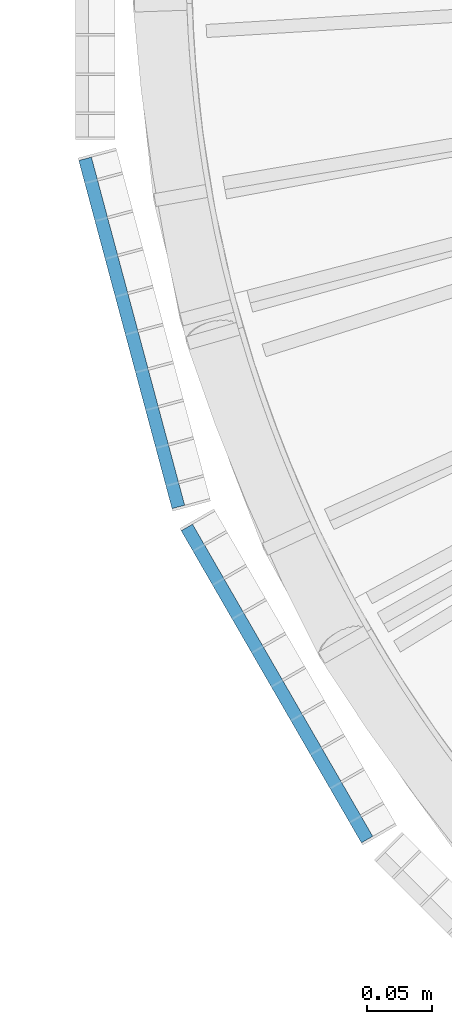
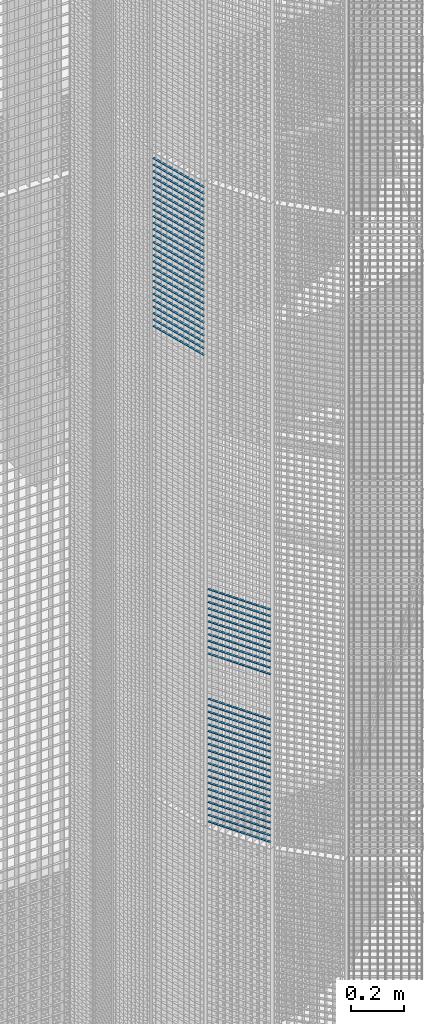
# One storey, part 117 of 1183: 58 beams, 2 elements without a shape of their own.
"""IFC2X3 building model written with IfcOpenShell, lengths in millimetres."""

from ifc_helpers import new_model, si_unit, frame, origin_with_axes, origin_2d_with_axis, place, context, subcontext, project, spatial, rectangle, extrude, material, type_object, element, aggregate, save


model = new_model("IFC2X3")

# Units and contexts
model_context = context("Model", 3, precision=1e-05, world=origin_with_axes())
body_context = subcontext(model_context, "Body", "Model", "MODEL_VIEW")
ifc_project = project(units=[si_unit("LENGTHUNIT", "METRE", prefix="MILLI"), si_unit("AREAUNIT", "SQUARE_METRE"), si_unit("VOLUMEUNIT", "CUBIC_METRE"), si_unit("MASSUNIT", "GRAM", prefix="KILO"), si_unit("TIMEUNIT", "SECOND"), si_unit("PLANEANGLEUNIT", "RADIAN"), si_unit("SOLIDANGLEUNIT", "STERADIAN"), si_unit("THERMODYNAMICTEMPERATUREUNIT", "DEGREE_CELSIUS"), si_unit("LUMINOUSINTENSITYUNIT", "LUMEN")], contexts=[model_context])

# Site, building, storey
site_placement = place(None, origin_with_axes())
site = spatial("IfcSite", under=ifc_project, at=site_placement, Name="Undefined", CompositionType="ELEMENT")
building_placement = place(site_placement, origin_with_axes())
building = spatial("IfcBuilding", under=site, at=building_placement, Name="Undefined", CompositionType="ELEMENT")
storey_placement = place(building_placement, origin_with_axes())
storey = spatial("IfcBuildingStorey", under=building, at=storey_placement, Name="Undefined", CompositionType="ELEMENT", Elevation=0.0)

# Assembly, beams
assembly_1_placement = place(storey_placement, origin_with_axes())
assembly_1 = element("IfcElementAssembly", 1, at=assembly_1_placement, inside=storey, Name="BORDURE", AssemblyPlace="NOTDEFINED", PredefinedType="NOTDEFINED")
ifc_material = material(Name="STEEL/S235JR")
beam_type = type_object("IfcBeamType", Name="PL2*10", PredefinedType="NOTDEFINED")
beam_1_placement = place(assembly_1_placement, frame((-1033.29996828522, -437.231955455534, 9600.0), z_axis=(-0.866025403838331, -0.499999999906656, 0.0), x_axis=(0.499999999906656, -0.866025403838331, 0.0)))
beam_1 = element("IfcBeam", 2, at=beam_1_placement, type_object=beam_type, material=ifc_material, Name="ENTRETOISE", context=body_context, shape_type="SweptSolid", body=[
    extrude(rectangle(XDim=2.0, YDim=10.0, at=origin_2d_with_axis()), frame((275.999999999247, 9.09494701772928e-13, 1.53210777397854e-14), z_axis=(-1.0, 0.0, 0.0), x_axis=(0.0, -1.0, 0.0)), (0.0, 0.0, 1.0), 276.0),
])
beam_2_placement = place(assembly_1_placement, frame((-1033.29996828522, -437.231955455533, 9810.0), z_axis=(-0.866025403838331, -0.499999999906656, 0.0), x_axis=(0.499999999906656, -0.866025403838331, 0.0)))
beam_2 = element("IfcBeam", 3, at=beam_2_placement, type_object=beam_type, material=ifc_material, Name="ENTRETOISE", context=body_context, shape_type="SweptSolid", body=[
    extrude(rectangle(XDim=2.0, YDim=10.0, at=origin_2d_with_axis()), frame((275.999999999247, 9.09494701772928e-13, 1.53210777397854e-14), z_axis=(-1.0, 0.0, 0.0), x_axis=(0.0, -1.0, 0.0)), (0.0, 0.0, 1.0), 276.0),
])
beam_3_placement = place(assembly_1_placement, frame((-1033.29996828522, -437.231955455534, 9570.0), z_axis=(-0.866025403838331, -0.499999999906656, 0.0), x_axis=(0.499999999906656, -0.866025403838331, 0.0)))
beam_3 = element("IfcBeam", 4, at=beam_3_placement, type_object=beam_type, material=ifc_material, Name="ENTRETOISE", context=body_context, shape_type="SweptSolid", body=[
    extrude(rectangle(XDim=2.0, YDim=10.0, at=origin_2d_with_axis()), frame((275.999999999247, 9.09494701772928e-13, 1.53210777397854e-14), z_axis=(-1.0, 0.0, 0.0), x_axis=(0.0, -1.0, 0.0)), (0.0, 0.0, 1.0), 276.0),
])
beam_4_placement = place(assembly_1_placement, frame((-1033.29996828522, -437.231955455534, 9540.0), z_axis=(-0.866025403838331, -0.499999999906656, 0.0), x_axis=(0.499999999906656, -0.866025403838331, 0.0)))
beam_4 = element("IfcBeam", 5, at=beam_4_placement, type_object=beam_type, material=ifc_material, Name="ENTRETOISE", context=body_context, shape_type="SweptSolid", body=[
    extrude(rectangle(XDim=2.0, YDim=10.0, at=origin_2d_with_axis()), frame((275.999999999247, 9.09494701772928e-13, 1.53210777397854e-14), z_axis=(-1.0, 0.0, 0.0), x_axis=(0.0, -1.0, 0.0)), (0.0, 0.0, 1.0), 276.0),
])
beam_5_placement = place(assembly_1_placement, frame((-1033.29996828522, -437.231955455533, 9840.0), z_axis=(-0.866025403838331, -0.499999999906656, 0.0), x_axis=(0.499999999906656, -0.866025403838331, 0.0)))
beam_5 = element("IfcBeam", 6, at=beam_5_placement, type_object=beam_type, material=ifc_material, Name="ENTRETOISE", context=body_context, shape_type="SweptSolid", body=[
    extrude(rectangle(XDim=2.0, YDim=10.0, at=origin_2d_with_axis()), frame((275.999999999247, 9.09494701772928e-13, 1.53210777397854e-14), z_axis=(-1.0, 0.0, 0.0), x_axis=(0.0, -1.0, 0.0)), (0.0, 0.0, 1.0), 276.0),
])
beam_6_placement = place(assembly_1_placement, frame((-1033.29996828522, -437.231955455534, 9510.0), z_axis=(-0.866025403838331, -0.499999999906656, 0.0), x_axis=(0.499999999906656, -0.866025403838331, 0.0)))
beam_6 = element("IfcBeam", 7, at=beam_6_placement, type_object=beam_type, material=ifc_material, Name="ENTRETOISE", context=body_context, shape_type="SweptSolid", body=[
    extrude(rectangle(XDim=2.0, YDim=10.0, at=origin_2d_with_axis()), frame((275.999999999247, 9.09494701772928e-13, 1.53210777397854e-14), z_axis=(-1.0, 0.0, 0.0), x_axis=(0.0, -1.0, 0.0)), (0.0, 0.0, 1.0), 276.0),
])
beam_7_placement = place(assembly_1_placement, frame((-1033.29996828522, -437.231955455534, 9480.0), z_axis=(-0.866025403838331, -0.499999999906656, 0.0), x_axis=(0.499999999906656, -0.866025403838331, 0.0)))
beam_7 = element("IfcBeam", 8, at=beam_7_placement, type_object=beam_type, material=ifc_material, Name="ENTRETOISE", context=body_context, shape_type="SweptSolid", body=[
    extrude(rectangle(XDim=2.0, YDim=10.0, at=origin_2d_with_axis()), frame((275.999999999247, 9.09494701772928e-13, 1.53210777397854e-14), z_axis=(-1.0, 0.0, 0.0), x_axis=(0.0, -1.0, 0.0)), (0.0, 0.0, 1.0), 276.0),
])
beam_8_placement = place(assembly_1_placement, frame((-1033.29996828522, -437.231955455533, 9870.0), z_axis=(-0.866025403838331, -0.499999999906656, 0.0), x_axis=(0.499999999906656, -0.866025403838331, 0.0)))
beam_8 = element("IfcBeam", 9, at=beam_8_placement, type_object=beam_type, material=ifc_material, Name="ENTRETOISE", context=body_context, shape_type="SweptSolid", body=[
    extrude(rectangle(XDim=2.0, YDim=10.0, at=origin_2d_with_axis()), frame((275.999999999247, 9.09494701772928e-13, 1.53210777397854e-14), z_axis=(-1.0, 0.0, 0.0), x_axis=(0.0, -1.0, 0.0)), (0.0, 0.0, 1.0), 276.0),
])
beam_9_placement = place(assembly_1_placement, frame((-1033.29996828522, -437.231955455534, 9450.0), z_axis=(-0.866025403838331, -0.499999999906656, 0.0), x_axis=(0.499999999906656, -0.866025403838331, 0.0)))
beam_9 = element("IfcBeam", 10, at=beam_9_placement, type_object=beam_type, material=ifc_material, Name="ENTRETOISE", context=body_context, shape_type="SweptSolid", body=[
    extrude(rectangle(XDim=2.0, YDim=10.0, at=origin_2d_with_axis()), frame((275.999999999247, 9.09494701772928e-13, 1.53210777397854e-14), z_axis=(-1.0, 0.0, 0.0), x_axis=(0.0, -1.0, 0.0)), (0.0, 0.0, 1.0), 276.0),
])
beam_10_placement = place(assembly_1_placement, frame((-1033.29996828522, -437.231955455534, 9420.0), z_axis=(-0.866025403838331, -0.499999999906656, 0.0), x_axis=(0.499999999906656, -0.866025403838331, 0.0)))
beam_10 = element("IfcBeam", 11, at=beam_10_placement, type_object=beam_type, material=ifc_material, Name="ENTRETOISE", context=body_context, shape_type="SweptSolid", body=[
    extrude(rectangle(XDim=2.0, YDim=10.0, at=origin_2d_with_axis()), frame((275.999999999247, 9.09494701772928e-13, 1.53210777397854e-14), z_axis=(-1.0, 0.0, 0.0), x_axis=(0.0, -1.0, 0.0)), (0.0, 0.0, 1.0), 276.0),
])
beam_11_placement = place(assembly_1_placement, frame((-1033.29996828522, -437.231955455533, 9900.0), z_axis=(-0.866025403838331, -0.499999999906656, 0.0), x_axis=(0.499999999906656, -0.866025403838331, 0.0)))
beam_11 = element("IfcBeam", 12, at=beam_11_placement, type_object=beam_type, material=ifc_material, Name="ENTRETOISE", context=body_context, shape_type="SweptSolid", body=[
    extrude(rectangle(XDim=2.0, YDim=10.0, at=origin_2d_with_axis()), frame((275.999999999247, 9.09494701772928e-13, 1.53210777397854e-14), z_axis=(-1.0, 0.0, 0.0), x_axis=(0.0, -1.0, 0.0)), (0.0, 0.0, 1.0), 276.0),
])
beam_12_placement = place(assembly_1_placement, frame((-1033.29996828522, -437.231955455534, 9390.0), z_axis=(-0.866025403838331, -0.499999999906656, 0.0), x_axis=(0.499999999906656, -0.866025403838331, 0.0)))
beam_12 = element("IfcBeam", 13, at=beam_12_placement, type_object=beam_type, material=ifc_material, Name="ENTRETOISE", context=body_context, shape_type="SweptSolid", body=[
    extrude(rectangle(XDim=2.0, YDim=10.0, at=origin_2d_with_axis()), frame((275.999999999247, 9.09494701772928e-13, 1.53210777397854e-14), z_axis=(-1.0, 0.0, 0.0), x_axis=(0.0, -1.0, 0.0)), (0.0, 0.0, 1.0), 276.0),
])
beam_13_placement = place(assembly_1_placement, frame((-1033.29996828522, -437.231955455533, 9930.0), z_axis=(-0.866025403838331, -0.499999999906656, 0.0), x_axis=(0.499999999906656, -0.866025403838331, 0.0)))
beam_13 = element("IfcBeam", 14, at=beam_13_placement, type_object=beam_type, material=ifc_material, Name="ENTRETOISE", context=body_context, shape_type="SweptSolid", body=[
    extrude(rectangle(XDim=2.0, YDim=10.0, at=origin_2d_with_axis()), frame((275.999999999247, 9.09494701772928e-13, 1.53210777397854e-14), z_axis=(-1.0, 0.0, 0.0), x_axis=(0.0, -1.0, 0.0)), (0.0, 0.0, 1.0), 276.0),
])
beam_14_placement = place(assembly_1_placement, frame((-1033.29996828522, -437.231955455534, 9360.0), z_axis=(-0.866025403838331, -0.499999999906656, 0.0), x_axis=(0.499999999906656, -0.866025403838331, 0.0)))
beam_14 = element("IfcBeam", 15, at=beam_14_placement, type_object=beam_type, material=ifc_material, Name="ENTRETOISE", context=body_context, shape_type="SweptSolid", body=[
    extrude(rectangle(XDim=2.0, YDim=10.0, at=origin_2d_with_axis()), frame((275.999999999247, 9.09494701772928e-13, 1.53210777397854e-14), z_axis=(-1.0, 0.0, 0.0), x_axis=(0.0, -1.0, 0.0)), (0.0, 0.0, 1.0), 276.0),
])
beam_15_placement = place(assembly_1_placement, frame((-1033.29996828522, -437.231955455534, 9330.0), z_axis=(-0.866025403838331, -0.499999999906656, 0.0), x_axis=(0.499999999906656, -0.866025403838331, 0.0)))
beam_15 = element("IfcBeam", 16, at=beam_15_placement, type_object=beam_type, material=ifc_material, Name="ENTRETOISE", context=body_context, shape_type="SweptSolid", body=[
    extrude(rectangle(XDim=2.0, YDim=10.0, at=origin_2d_with_axis()), frame((275.999999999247, 9.09494701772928e-13, 1.53210777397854e-14), z_axis=(-1.0, 0.0, 0.0), x_axis=(0.0, -1.0, 0.0)), (0.0, 0.0, 1.0), 276.0),
])
beam_16_placement = place(assembly_1_placement, frame((-1033.29996828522, -437.231955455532, 9960.0), z_axis=(-0.866025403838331, -0.499999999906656, 0.0), x_axis=(0.499999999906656, -0.866025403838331, 0.0)))
beam_16 = element("IfcBeam", 17, at=beam_16_placement, type_object=beam_type, material=ifc_material, Name="ENTRETOISE", context=body_context, shape_type="SweptSolid", body=[
    extrude(rectangle(XDim=2.0, YDim=10.0, at=origin_2d_with_axis()), frame((275.999999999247, 9.09494701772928e-13, 1.53210777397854e-14), z_axis=(-1.0, 0.0, 0.0), x_axis=(0.0, -1.0, 0.0)), (0.0, 0.0, 1.0), 276.0),
])
beam_17_placement = place(assembly_1_placement, frame((-1033.29996828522, -437.231955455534, 9300.0), z_axis=(-0.866025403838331, -0.499999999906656, 0.0), x_axis=(0.499999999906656, -0.866025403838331, 0.0)))
beam_17 = element("IfcBeam", 18, at=beam_17_placement, type_object=beam_type, material=ifc_material, Name="ENTRETOISE", context=body_context, shape_type="SweptSolid", body=[
    extrude(rectangle(XDim=2.0, YDim=10.0, at=origin_2d_with_axis()), frame((275.999999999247, 9.09494701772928e-13, 1.53210777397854e-14), z_axis=(-1.0, 0.0, 0.0), x_axis=(0.0, -1.0, 0.0)), (0.0, 0.0, 1.0), 276.0),
])
beam_18_placement = place(assembly_1_placement, frame((-1033.29996828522, -437.231955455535, 9270.0), z_axis=(-0.866025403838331, -0.499999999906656, 0.0), x_axis=(0.499999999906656, -0.866025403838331, 0.0)))
beam_18 = element("IfcBeam", 19, at=beam_18_placement, type_object=beam_type, material=ifc_material, Name="ENTRETOISE", context=body_context, shape_type="SweptSolid", body=[
    extrude(rectangle(XDim=2.0, YDim=10.0, at=origin_2d_with_axis()), frame((275.999999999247, 9.09494701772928e-13, 1.53210777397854e-14), z_axis=(-1.0, 0.0, 0.0), x_axis=(0.0, -1.0, 0.0)), (0.0, 0.0, 1.0), 276.0),
])
beam_19_placement = place(assembly_1_placement, frame((-1033.29996828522, -437.231955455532, 9990.0), z_axis=(-0.866025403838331, -0.499999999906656, 0.0), x_axis=(0.499999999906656, -0.866025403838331, 0.0)))
beam_19 = element("IfcBeam", 20, at=beam_19_placement, type_object=beam_type, material=ifc_material, Name="ENTRETOISE", context=body_context, shape_type="SweptSolid", body=[
    extrude(rectangle(XDim=2.0, YDim=10.0, at=origin_2d_with_axis()), frame((275.999999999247, 9.09494701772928e-13, 1.53210777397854e-14), z_axis=(-1.0, 0.0, 0.0), x_axis=(0.0, -1.0, 0.0)), (0.0, 0.0, 1.0), 276.0),
])
beam_20_placement = place(assembly_1_placement, frame((-1033.29996828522, -437.231955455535, 9240.0), z_axis=(-0.866025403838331, -0.499999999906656, 0.0), x_axis=(0.499999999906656, -0.866025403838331, 0.0)))
beam_20 = element("IfcBeam", 21, at=beam_20_placement, type_object=beam_type, material=ifc_material, Name="ENTRETOISE", context=body_context, shape_type="SweptSolid", body=[
    extrude(rectangle(XDim=2.0, YDim=10.0, at=origin_2d_with_axis()), frame((275.999999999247, 9.09494701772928e-13, 1.53210777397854e-14), z_axis=(-1.0, 0.0, 0.0), x_axis=(0.0, -1.0, 0.0)), (0.0, 0.0, 1.0), 276.0),
])
beam_21_placement = place(assembly_1_placement, frame((-1033.29996828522, -437.231955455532, 10020.0), z_axis=(-0.866025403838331, -0.499999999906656, 0.0), x_axis=(0.499999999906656, -0.866025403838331, 0.0)))
beam_21 = element("IfcBeam", 22, at=beam_21_placement, type_object=beam_type, material=ifc_material, Name="ENTRETOISE", context=body_context, shape_type="SweptSolid", body=[
    extrude(rectangle(XDim=2.0, YDim=10.0, at=origin_2d_with_axis()), frame((275.999999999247, 9.09494701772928e-13, 1.53210777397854e-14), z_axis=(-1.0, 0.0, 0.0), x_axis=(0.0, -1.0, 0.0)), (0.0, 0.0, 1.0), 276.0),
])
beam_22_placement = place(assembly_1_placement, frame((-1033.29996828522, -437.231955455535, 9210.0), z_axis=(-0.866025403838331, -0.499999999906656, 0.0), x_axis=(0.499999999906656, -0.866025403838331, 0.0)))
beam_22 = element("IfcBeam", 23, at=beam_22_placement, type_object=beam_type, material=ifc_material, Name="ENTRETOISE", context=body_context, shape_type="SweptSolid", body=[
    extrude(rectangle(XDim=2.0, YDim=10.0, at=origin_2d_with_axis()), frame((275.999999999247, 9.09494701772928e-13, 1.53210777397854e-14), z_axis=(-1.0, 0.0, 0.0), x_axis=(0.0, -1.0, 0.0)), (0.0, 0.0, 1.0), 276.0),
])
beam_23_placement = place(assembly_1_placement, frame((-1033.29996828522, -437.231955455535, 9180.0), z_axis=(-0.866025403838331, -0.499999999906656, 0.0), x_axis=(0.499999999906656, -0.866025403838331, 0.0)))
beam_23 = element("IfcBeam", 24, at=beam_23_placement, type_object=beam_type, material=ifc_material, Name="ENTRETOISE", context=body_context, shape_type="SweptSolid", body=[
    extrude(rectangle(XDim=2.0, YDim=10.0, at=origin_2d_with_axis()), frame((275.999999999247, 9.09494701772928e-13, 1.53210777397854e-14), z_axis=(-1.0, 0.0, 0.0), x_axis=(0.0, -1.0, 0.0)), (0.0, 0.0, 1.0), 276.0),
])
beam_24_placement = place(assembly_1_placement, frame((-1033.29996828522, -437.231955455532, 10050.0), z_axis=(-0.866025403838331, -0.499999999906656, 0.0), x_axis=(0.499999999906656, -0.866025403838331, 0.0)))
beam_24 = element("IfcBeam", 25, at=beam_24_placement, type_object=beam_type, material=ifc_material, Name="ENTRETOISE", context=body_context, shape_type="SweptSolid", body=[
    extrude(rectangle(XDim=2.0, YDim=10.0, at=origin_2d_with_axis()), frame((275.999999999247, 9.09494701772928e-13, 1.53210777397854e-14), z_axis=(-1.0, 0.0, 0.0), x_axis=(0.0, -1.0, 0.0)), (0.0, 0.0, 1.0), 276.0),
])
beam_25_placement = place(assembly_1_placement, frame((-1033.29996828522, -437.231955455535, 9150.0), z_axis=(-0.866025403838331, -0.499999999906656, 0.0), x_axis=(0.499999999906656, -0.866025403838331, 0.0)))
beam_25 = element("IfcBeam", 26, at=beam_25_placement, type_object=beam_type, material=ifc_material, Name="ENTRETOISE", context=body_context, shape_type="SweptSolid", body=[
    extrude(rectangle(XDim=2.0, YDim=10.0, at=origin_2d_with_axis()), frame((275.999999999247, 9.09494701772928e-13, 1.53210777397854e-14), z_axis=(-1.0, 0.0, 0.0), x_axis=(0.0, -1.0, 0.0)), (0.0, 0.0, 1.0), 276.0),
])
beam_26_placement = place(assembly_1_placement, frame((-1033.29996828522, -437.231955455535, 9120.0), z_axis=(-0.866025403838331, -0.499999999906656, 0.0), x_axis=(0.499999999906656, -0.866025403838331, 0.0)))
beam_26 = element("IfcBeam", 27, at=beam_26_placement, type_object=beam_type, material=ifc_material, Name="ENTRETOISE", context=body_context, shape_type="SweptSolid", body=[
    extrude(rectangle(XDim=2.0, YDim=10.0, at=origin_2d_with_axis()), frame((275.999999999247, 9.09494701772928e-13, 1.53210777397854e-14), z_axis=(-1.0, 0.0, 0.0), x_axis=(0.0, -1.0, 0.0)), (0.0, 0.0, 1.0), 276.0),
])
beam_27_placement = place(assembly_1_placement, frame((-1033.29996828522, -437.231955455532, 10080.0), z_axis=(-0.866025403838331, -0.499999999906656, 0.0), x_axis=(0.499999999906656, -0.866025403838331, 0.0)))
beam_27 = element("IfcBeam", 28, at=beam_27_placement, type_object=beam_type, material=ifc_material, Name="ENTRETOISE", context=body_context, shape_type="SweptSolid", body=[
    extrude(rectangle(XDim=2.0, YDim=10.0, at=origin_2d_with_axis()), frame((275.999999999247, 9.09494701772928e-13, 1.53210777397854e-14), z_axis=(-1.0, 0.0, 0.0), x_axis=(0.0, -1.0, 0.0)), (0.0, 0.0, 1.0), 276.0),
])
beam_28_placement = place(assembly_1_placement, frame((-1033.29996828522, -437.231955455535, 9090.0), z_axis=(-0.866025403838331, -0.499999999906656, 0.0), x_axis=(0.499999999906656, -0.866025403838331, 0.0)))
beam_28 = element("IfcBeam", 29, at=beam_28_placement, type_object=beam_type, material=ifc_material, Name="ENTRETOISE", context=body_context, shape_type="SweptSolid", body=[
    extrude(rectangle(XDim=2.0, YDim=10.0, at=origin_2d_with_axis()), frame((275.999999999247, 9.09494701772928e-13, 1.53210777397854e-14), z_axis=(-1.0, 0.0, 0.0), x_axis=(0.0, -1.0, 0.0)), (0.0, 0.0, 1.0), 276.0),
])
beam_29_placement = place(assembly_1_placement, frame((-1033.29996828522, -437.231955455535, 9060.0), z_axis=(-0.866025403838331, -0.499999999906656, 0.0), x_axis=(0.499999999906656, -0.866025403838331, 0.0)))
beam_29 = element("IfcBeam", 30, at=beam_29_placement, type_object=beam_type, material=ifc_material, Name="ENTRETOISE", context=body_context, shape_type="SweptSolid", body=[
    extrude(rectangle(XDim=2.0, YDim=10.0, at=origin_2d_with_axis()), frame((275.999999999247, 9.09494701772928e-13, 1.53210777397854e-14), z_axis=(-1.0, 0.0, 0.0), x_axis=(0.0, -1.0, 0.0)), (0.0, 0.0, 1.0), 276.0),
])
beam_30_placement = place(assembly_1_placement, frame((-1033.29996828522, -437.231955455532, 10110.0), z_axis=(-0.866025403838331, -0.499999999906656, 0.0), x_axis=(0.499999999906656, -0.866025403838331, 0.0)))
beam_30 = element("IfcBeam", 31, at=beam_30_placement, type_object=beam_type, material=ifc_material, Name="ENTRETOISE", context=body_context, shape_type="SweptSolid", body=[
    extrude(rectangle(XDim=2.0, YDim=10.0, at=origin_2d_with_axis()), frame((275.999999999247, 9.09494701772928e-13, 1.53210777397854e-14), z_axis=(-1.0, 0.0, 0.0), x_axis=(0.0, -1.0, 0.0)), (0.0, 0.0, 1.0), 276.0),
])
beam_31_placement = place(assembly_1_placement, frame((-1033.29996828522, -437.231955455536, 9030.0), z_axis=(-0.866025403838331, -0.499999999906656, 0.0), x_axis=(0.499999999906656, -0.866025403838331, 0.0)))
beam_31 = element("IfcBeam", 32, at=beam_31_placement, type_object=beam_type, material=ifc_material, Name="ENTRETOISE", context=body_context, shape_type="SweptSolid", body=[
    extrude(rectangle(XDim=2.0, YDim=10.0, at=origin_2d_with_axis()), frame((275.999999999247, 9.09494701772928e-13, 1.53210777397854e-14), z_axis=(-1.0, 0.0, 0.0), x_axis=(0.0, -1.0, 0.0)), (0.0, 0.0, 1.0), 276.0),
])
aggregate(assembly_1, [beam_1, beam_2, beam_3, beam_4, beam_5, beam_6, beam_7, beam_8, beam_9, beam_10, beam_11, beam_12, beam_13, beam_14, beam_15, beam_16, beam_17, beam_18, beam_19, beam_20, beam_21, beam_22, beam_23, beam_24, beam_25, beam_26, beam_27, beam_28, beam_29, beam_30, beam_31])

assembly_2_placement = place(storey_placement, origin_with_axes())
assembly_2 = element("IfcElementAssembly", 33, at=assembly_2_placement, inside=storey, Name="BORDURE", AssemblyPlace="NOTDEFINED", PredefinedType="NOTDEFINED")
beam_32_placement = place(assembly_2_placement, frame((-1111.25508286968, -154.895926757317, 11970.0), z_axis=(-0.965925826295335, -0.258819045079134, 0.0), x_axis=(0.258819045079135, -0.965925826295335, 0.0)))
beam_32 = element("IfcBeam", 34, at=beam_32_placement, type_object=beam_type, material=ifc_material, Name="ENTRETOISE", context=body_context, shape_type="SweptSolid", body=[
    extrude(rectangle(XDim=2.0, YDim=10.0, at=origin_2d_with_axis()), frame((275.999999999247, 9.09494701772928e-13, 1.53210777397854e-14), z_axis=(-1.0, 0.0, 0.0), x_axis=(0.0, -1.0, 0.0)), (0.0, 0.0, 1.0), 276.0),
])
beam_33_placement = place(assembly_2_placement, frame((-1111.25508286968, -154.895926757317, 11940.0), z_axis=(-0.965925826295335, -0.258819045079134, 0.0), x_axis=(0.258819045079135, -0.965925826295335, 0.0)))
beam_33 = element("IfcBeam", 35, at=beam_33_placement, type_object=beam_type, material=ifc_material, Name="ENTRETOISE", context=body_context, shape_type="SweptSolid", body=[
    extrude(rectangle(XDim=2.0, YDim=10.0, at=origin_2d_with_axis()), frame((275.999999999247, 9.09494701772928e-13, 1.53210777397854e-14), z_axis=(-1.0, 0.0, 0.0), x_axis=(0.0, -1.0, 0.0)), (0.0, 0.0, 1.0), 276.0),
])
beam_34_placement = place(assembly_2_placement, frame((-1111.25508286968, -154.895926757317, 11910.0), z_axis=(-0.965925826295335, -0.258819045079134, 0.0), x_axis=(0.258819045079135, -0.965925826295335, 0.0)))
beam_34 = element("IfcBeam", 36, at=beam_34_placement, type_object=beam_type, material=ifc_material, Name="ENTRETOISE", context=body_context, shape_type="SweptSolid", body=[
    extrude(rectangle(XDim=2.0, YDim=10.0, at=origin_2d_with_axis()), frame((275.999999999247, 9.09494701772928e-13, 1.53210777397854e-14), z_axis=(-1.0, 0.0, 0.0), x_axis=(0.0, -1.0, 0.0)), (0.0, 0.0, 1.0), 276.0),
])
beam_35_placement = place(assembly_2_placement, frame((-1111.25508286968, -154.895926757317, 11880.0), z_axis=(-0.965925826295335, -0.258819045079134, 0.0), x_axis=(0.258819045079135, -0.965925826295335, 0.0)))
beam_35 = element("IfcBeam", 37, at=beam_35_placement, type_object=beam_type, material=ifc_material, Name="ENTRETOISE", context=body_context, shape_type="SweptSolid", body=[
    extrude(rectangle(XDim=2.0, YDim=10.0, at=origin_2d_with_axis()), frame((275.999999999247, 9.09494701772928e-13, 1.53210777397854e-14), z_axis=(-1.0, 0.0, 0.0), x_axis=(0.0, -1.0, 0.0)), (0.0, 0.0, 1.0), 276.0),
])
beam_36_placement = place(assembly_2_placement, frame((-1111.25508286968, -154.895926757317, 11850.0), z_axis=(-0.965925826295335, -0.258819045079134, 0.0), x_axis=(0.258819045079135, -0.965925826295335, 0.0)))
beam_36 = element("IfcBeam", 38, at=beam_36_placement, type_object=beam_type, material=ifc_material, Name="ENTRETOISE", context=body_context, shape_type="SweptSolid", body=[
    extrude(rectangle(XDim=2.0, YDim=10.0, at=origin_2d_with_axis()), frame((275.999999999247, 9.09494701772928e-13, 1.53210777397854e-14), z_axis=(-1.0, 0.0, 0.0), x_axis=(0.0, -1.0, 0.0)), (0.0, 0.0, 1.0), 276.0),
])
beam_37_placement = place(assembly_2_placement, frame((-1111.25508286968, -154.895926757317, 11820.0), z_axis=(-0.965925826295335, -0.258819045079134, 0.0), x_axis=(0.258819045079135, -0.965925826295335, 0.0)))
beam_37 = element("IfcBeam", 39, at=beam_37_placement, type_object=beam_type, material=ifc_material, Name="ENTRETOISE", context=body_context, shape_type="SweptSolid", body=[
    extrude(rectangle(XDim=2.0, YDim=10.0, at=origin_2d_with_axis()), frame((275.999999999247, 9.09494701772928e-13, 1.53210777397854e-14), z_axis=(-1.0, 0.0, 0.0), x_axis=(0.0, -1.0, 0.0)), (0.0, 0.0, 1.0), 276.0),
])
beam_38_placement = place(assembly_2_placement, frame((-1111.25508286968, -154.895926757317, 11790.0), z_axis=(-0.965925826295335, -0.258819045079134, 0.0), x_axis=(0.258819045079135, -0.965925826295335, 0.0)))
beam_38 = element("IfcBeam", 40, at=beam_38_placement, type_object=beam_type, material=ifc_material, Name="ENTRETOISE", context=body_context, shape_type="SweptSolid", body=[
    extrude(rectangle(XDim=2.0, YDim=10.0, at=origin_2d_with_axis()), frame((275.999999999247, 9.09494701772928e-13, 1.53210777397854e-14), z_axis=(-1.0, 0.0, 0.0), x_axis=(0.0, -1.0, 0.0)), (0.0, 0.0, 1.0), 276.0),
])
beam_39_placement = place(assembly_2_placement, frame((-1111.25508286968, -154.895926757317, 11760.0), z_axis=(-0.965925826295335, -0.258819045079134, 0.0), x_axis=(0.258819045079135, -0.965925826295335, 0.0)))
beam_39 = element("IfcBeam", 41, at=beam_39_placement, type_object=beam_type, material=ifc_material, Name="ENTRETOISE", context=body_context, shape_type="SweptSolid", body=[
    extrude(rectangle(XDim=2.0, YDim=10.0, at=origin_2d_with_axis()), frame((275.999999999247, 9.09494701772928e-13, 1.53210777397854e-14), z_axis=(-1.0, 0.0, 0.0), x_axis=(0.0, -1.0, 0.0)), (0.0, 0.0, 1.0), 276.0),
])
beam_40_placement = place(assembly_2_placement, frame((-1111.25508286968, -154.895926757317, 11730.0), z_axis=(-0.965925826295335, -0.258819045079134, 0.0), x_axis=(0.258819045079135, -0.965925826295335, 0.0)))
beam_40 = element("IfcBeam", 42, at=beam_40_placement, type_object=beam_type, material=ifc_material, Name="ENTRETOISE", context=body_context, shape_type="SweptSolid", body=[
    extrude(rectangle(XDim=2.0, YDim=10.0, at=origin_2d_with_axis()), frame((275.999999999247, 9.09494701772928e-13, 1.53210777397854e-14), z_axis=(-1.0, 0.0, 0.0), x_axis=(0.0, -1.0, 0.0)), (0.0, 0.0, 1.0), 276.0),
])
beam_41_placement = place(assembly_2_placement, frame((-1111.25508286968, -154.895926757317, 11700.0), z_axis=(-0.965925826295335, -0.258819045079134, 0.0), x_axis=(0.258819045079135, -0.965925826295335, 0.0)))
beam_41 = element("IfcBeam", 43, at=beam_41_placement, type_object=beam_type, material=ifc_material, Name="ENTRETOISE", context=body_context, shape_type="SweptSolid", body=[
    extrude(rectangle(XDim=2.0, YDim=10.0, at=origin_2d_with_axis()), frame((275.999999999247, 9.09494701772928e-13, 1.53210777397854e-14), z_axis=(-1.0, 0.0, 0.0), x_axis=(0.0, -1.0, 0.0)), (0.0, 0.0, 1.0), 276.0),
])
beam_42_placement = place(assembly_2_placement, frame((-1111.25508286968, -154.895926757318, 11670.0), z_axis=(-0.965925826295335, -0.258819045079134, 0.0), x_axis=(0.258819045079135, -0.965925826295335, 0.0)))
beam_42 = element("IfcBeam", 44, at=beam_42_placement, type_object=beam_type, material=ifc_material, Name="ENTRETOISE", context=body_context, shape_type="SweptSolid", body=[
    extrude(rectangle(XDim=2.0, YDim=10.0, at=origin_2d_with_axis()), frame((275.999999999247, 9.09494701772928e-13, 1.53210777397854e-14), z_axis=(-1.0, 0.0, 0.0), x_axis=(0.0, -1.0, 0.0)), (0.0, 0.0, 1.0), 276.0),
])
beam_43_placement = place(assembly_2_placement, frame((-1111.25508286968, -154.895926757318, 11640.0), z_axis=(-0.965925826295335, -0.258819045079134, 0.0), x_axis=(0.258819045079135, -0.965925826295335, 0.0)))
beam_43 = element("IfcBeam", 45, at=beam_43_placement, type_object=beam_type, material=ifc_material, Name="ENTRETOISE", context=body_context, shape_type="SweptSolid", body=[
    extrude(rectangle(XDim=2.0, YDim=10.0, at=origin_2d_with_axis()), frame((275.999999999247, 9.09494701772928e-13, 1.53210777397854e-14), z_axis=(-1.0, 0.0, 0.0), x_axis=(0.0, -1.0, 0.0)), (0.0, 0.0, 1.0), 276.0),
])
beam_44_placement = place(assembly_2_placement, frame((-1111.25508286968, -154.895926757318, 11610.0), z_axis=(-0.965925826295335, -0.258819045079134, 0.0), x_axis=(0.258819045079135, -0.965925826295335, 0.0)))
beam_44 = element("IfcBeam", 46, at=beam_44_placement, type_object=beam_type, material=ifc_material, Name="ENTRETOISE", context=body_context, shape_type="SweptSolid", body=[
    extrude(rectangle(XDim=2.0, YDim=10.0, at=origin_2d_with_axis()), frame((275.999999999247, 9.09494701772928e-13, 1.53210777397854e-14), z_axis=(-1.0, 0.0, 0.0), x_axis=(0.0, -1.0, 0.0)), (0.0, 0.0, 1.0), 276.0),
])
beam_45_placement = place(assembly_2_placement, frame((-1111.25508286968, -154.895926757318, 11580.0), z_axis=(-0.965925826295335, -0.258819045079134, 0.0), x_axis=(0.258819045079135, -0.965925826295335, 0.0)))
beam_45 = element("IfcBeam", 47, at=beam_45_placement, type_object=beam_type, material=ifc_material, Name="ENTRETOISE", context=body_context, shape_type="SweptSolid", body=[
    extrude(rectangle(XDim=2.0, YDim=10.0, at=origin_2d_with_axis()), frame((275.999999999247, 9.09494701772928e-13, 1.53210777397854e-14), z_axis=(-1.0, 0.0, 0.0), x_axis=(0.0, -1.0, 0.0)), (0.0, 0.0, 1.0), 276.0),
])
beam_46_placement = place(assembly_2_placement, frame((-1111.25508286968, -154.895926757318, 11550.0), z_axis=(-0.965925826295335, -0.258819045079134, 0.0), x_axis=(0.258819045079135, -0.965925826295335, 0.0)))
beam_46 = element("IfcBeam", 48, at=beam_46_placement, type_object=beam_type, material=ifc_material, Name="ENTRETOISE", context=body_context, shape_type="SweptSolid", body=[
    extrude(rectangle(XDim=2.0, YDim=10.0, at=origin_2d_with_axis()), frame((275.999999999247, 9.09494701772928e-13, 1.53210777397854e-14), z_axis=(-1.0, 0.0, 0.0), x_axis=(0.0, -1.0, 0.0)), (0.0, 0.0, 1.0), 276.0),
])
beam_47_placement = place(assembly_2_placement, frame((-1111.25508286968, -154.895926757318, 11520.0), z_axis=(-0.965925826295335, -0.258819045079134, 0.0), x_axis=(0.258819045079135, -0.965925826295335, 0.0)))
beam_47 = element("IfcBeam", 49, at=beam_47_placement, type_object=beam_type, material=ifc_material, Name="ENTRETOISE", context=body_context, shape_type="SweptSolid", body=[
    extrude(rectangle(XDim=2.0, YDim=10.0, at=origin_2d_with_axis()), frame((275.999999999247, 9.09494701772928e-13, 1.53210777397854e-14), z_axis=(-1.0, 0.0, 0.0), x_axis=(0.0, -1.0, 0.0)), (0.0, 0.0, 1.0), 276.0),
])
beam_48_placement = place(assembly_2_placement, frame((-1111.25508286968, -154.895926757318, 11490.0), z_axis=(-0.965925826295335, -0.258819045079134, 0.0), x_axis=(0.258819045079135, -0.965925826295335, 0.0)))
beam_48 = element("IfcBeam", 50, at=beam_48_placement, type_object=beam_type, material=ifc_material, Name="ENTRETOISE", context=body_context, shape_type="SweptSolid", body=[
    extrude(rectangle(XDim=2.0, YDim=10.0, at=origin_2d_with_axis()), frame((275.999999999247, 9.09494701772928e-13, 1.53210777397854e-14), z_axis=(-1.0, 0.0, 0.0), x_axis=(0.0, -1.0, 0.0)), (0.0, 0.0, 1.0), 276.0),
])
beam_49_placement = place(assembly_2_placement, frame((-1111.25508286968, -154.895926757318, 11460.0), z_axis=(-0.965925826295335, -0.258819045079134, 0.0), x_axis=(0.258819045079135, -0.965925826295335, 0.0)))
beam_49 = element("IfcBeam", 51, at=beam_49_placement, type_object=beam_type, material=ifc_material, Name="ENTRETOISE", context=body_context, shape_type="SweptSolid", body=[
    extrude(rectangle(XDim=2.0, YDim=10.0, at=origin_2d_with_axis()), frame((275.999999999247, 9.09494701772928e-13, 1.53210777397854e-14), z_axis=(-1.0, 0.0, 0.0), x_axis=(0.0, -1.0, 0.0)), (0.0, 0.0, 1.0), 276.0),
])
beam_50_placement = place(assembly_2_placement, frame((-1111.25508286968, -154.895926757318, 11430.0), z_axis=(-0.965925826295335, -0.258819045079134, 0.0), x_axis=(0.258819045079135, -0.965925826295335, 0.0)))
beam_50 = element("IfcBeam", 52, at=beam_50_placement, type_object=beam_type, material=ifc_material, Name="ENTRETOISE", context=body_context, shape_type="SweptSolid", body=[
    extrude(rectangle(XDim=2.0, YDim=10.0, at=origin_2d_with_axis()), frame((275.999999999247, 9.09494701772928e-13, 1.53210777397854e-14), z_axis=(-1.0, 0.0, 0.0), x_axis=(0.0, -1.0, 0.0)), (0.0, 0.0, 1.0), 276.0),
])
beam_51_placement = place(assembly_2_placement, frame((-1111.25508286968, -154.895926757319, 11400.0), z_axis=(-0.965925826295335, -0.258819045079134, 0.0), x_axis=(0.258819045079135, -0.965925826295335, 0.0)))
beam_51 = element("IfcBeam", 53, at=beam_51_placement, type_object=beam_type, material=ifc_material, Name="ENTRETOISE", context=body_context, shape_type="SweptSolid", body=[
    extrude(rectangle(XDim=2.0, YDim=10.0, at=origin_2d_with_axis()), frame((275.999999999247, 9.09494701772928e-13, 1.53210777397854e-14), z_axis=(-1.0, 0.0, 0.0), x_axis=(0.0, -1.0, 0.0)), (0.0, 0.0, 1.0), 276.0),
])
beam_52_placement = place(assembly_2_placement, frame((-1111.25508286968, -154.895926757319, 11370.0), z_axis=(-0.965925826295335, -0.258819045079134, 0.0), x_axis=(0.258819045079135, -0.965925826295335, 0.0)))
beam_52 = element("IfcBeam", 54, at=beam_52_placement, type_object=beam_type, material=ifc_material, Name="ENTRETOISE", context=body_context, shape_type="SweptSolid", body=[
    extrude(rectangle(XDim=2.0, YDim=10.0, at=origin_2d_with_axis()), frame((275.999999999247, 9.09494701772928e-13, 1.53210777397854e-14), z_axis=(-1.0, 0.0, 0.0), x_axis=(0.0, -1.0, 0.0)), (0.0, 0.0, 1.0), 276.0),
])
beam_53_placement = place(assembly_2_placement, frame((-1111.25508286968, -154.895926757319, 11340.0), z_axis=(-0.965925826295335, -0.258819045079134, 0.0), x_axis=(0.258819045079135, -0.965925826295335, 0.0)))
beam_53 = element("IfcBeam", 55, at=beam_53_placement, type_object=beam_type, material=ifc_material, Name="ENTRETOISE", context=body_context, shape_type="SweptSolid", body=[
    extrude(rectangle(XDim=2.0, YDim=10.0, at=origin_2d_with_axis()), frame((275.999999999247, 9.09494701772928e-13, 1.53210777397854e-14), z_axis=(-1.0, 0.0, 0.0), x_axis=(0.0, -1.0, 0.0)), (0.0, 0.0, 1.0), 276.0),
])
beam_54_placement = place(assembly_2_placement, frame((-1111.25508286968, -154.895926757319, 11310.0), z_axis=(-0.965925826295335, -0.258819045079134, 0.0), x_axis=(0.258819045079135, -0.965925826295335, 0.0)))
beam_54 = element("IfcBeam", 56, at=beam_54_placement, type_object=beam_type, material=ifc_material, Name="ENTRETOISE", context=body_context, shape_type="SweptSolid", body=[
    extrude(rectangle(XDim=2.0, YDim=10.0, at=origin_2d_with_axis()), frame((275.999999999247, 9.09494701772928e-13, 1.53210777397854e-14), z_axis=(-1.0, 0.0, 0.0), x_axis=(0.0, -1.0, 0.0)), (0.0, 0.0, 1.0), 276.0),
])
beam_55_placement = place(assembly_2_placement, frame((-1111.25508286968, -154.895926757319, 11280.0), z_axis=(-0.965925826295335, -0.258819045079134, 0.0), x_axis=(0.258819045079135, -0.965925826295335, 0.0)))
beam_55 = element("IfcBeam", 57, at=beam_55_placement, type_object=beam_type, material=ifc_material, Name="ENTRETOISE", context=body_context, shape_type="SweptSolid", body=[
    extrude(rectangle(XDim=2.0, YDim=10.0, at=origin_2d_with_axis()), frame((275.999999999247, 9.09494701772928e-13, 1.53210777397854e-14), z_axis=(-1.0, 0.0, 0.0), x_axis=(0.0, -1.0, 0.0)), (0.0, 0.0, 1.0), 276.0),
])
beam_56_placement = place(assembly_2_placement, frame((-1111.25508286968, -154.895926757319, 11250.0), z_axis=(-0.965925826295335, -0.258819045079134, 0.0), x_axis=(0.258819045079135, -0.965925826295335, 0.0)))
beam_56 = element("IfcBeam", 58, at=beam_56_placement, type_object=beam_type, material=ifc_material, Name="ENTRETOISE", context=body_context, shape_type="SweptSolid", body=[
    extrude(rectangle(XDim=2.0, YDim=10.0, at=origin_2d_with_axis()), frame((275.999999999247, 9.09494701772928e-13, 1.53210777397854e-14), z_axis=(-1.0, 0.0, 0.0), x_axis=(0.0, -1.0, 0.0)), (0.0, 0.0, 1.0), 276.0),
])
beam_57_placement = place(assembly_2_placement, frame((-1111.25508286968, -154.895926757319, 11220.0), z_axis=(-0.965925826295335, -0.258819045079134, 0.0), x_axis=(0.258819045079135, -0.965925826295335, 0.0)))
beam_57 = element("IfcBeam", 59, at=beam_57_placement, type_object=beam_type, material=ifc_material, Name="ENTRETOISE", context=body_context, shape_type="SweptSolid", body=[
    extrude(rectangle(XDim=2.0, YDim=10.0, at=origin_2d_with_axis()), frame((275.999999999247, 9.09494701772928e-13, 1.53210777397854e-14), z_axis=(-1.0, 0.0, 0.0), x_axis=(0.0, -1.0, 0.0)), (0.0, 0.0, 1.0), 276.0),
])
beam_58_placement = place(assembly_2_placement, frame((-1111.25508286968, -154.895926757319, 11190.0), z_axis=(-0.965925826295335, -0.258819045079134, 0.0), x_axis=(0.258819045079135, -0.965925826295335, 0.0)))
beam_58 = element("IfcBeam", 60, at=beam_58_placement, type_object=beam_type, material=ifc_material, Name="ENTRETOISE", context=body_context, shape_type="SweptSolid", body=[
    extrude(rectangle(XDim=2.0, YDim=10.0, at=origin_2d_with_axis()), frame((275.999999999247, 9.09494701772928e-13, 1.53210777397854e-14), z_axis=(-1.0, 0.0, 0.0), x_axis=(0.0, -1.0, 0.0)), (0.0, 0.0, 1.0), 276.0),
])
aggregate(assembly_2, [beam_32, beam_33, beam_34, beam_35, beam_36, beam_37, beam_38, beam_39, beam_40, beam_41, beam_42, beam_43, beam_44, beam_45, beam_46, beam_47, beam_48, beam_49, beam_50, beam_51, beam_52, beam_53, beam_54, beam_55, beam_56, beam_57, beam_58])

save(model, "model.ifc")
